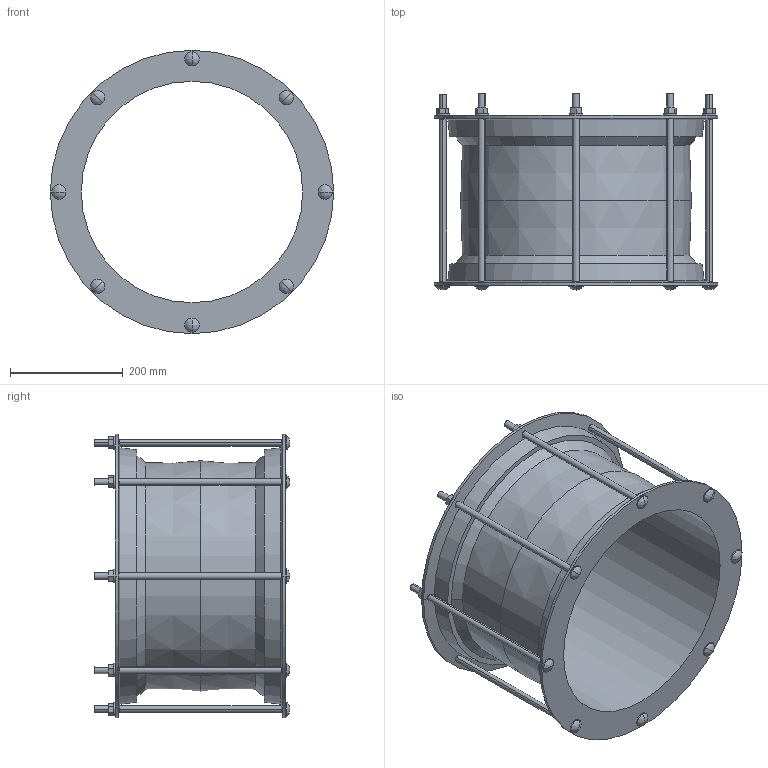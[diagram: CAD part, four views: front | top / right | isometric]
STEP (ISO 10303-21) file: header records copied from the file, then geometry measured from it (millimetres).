
FILE_DESCRIPTION((''),'2;1');
FILE_NAME('MAXIFIT_374_391','2018-12-18T',('mfairey'),('Glynwed Pipe Systems'),'CREO PARAMETRIC BY PTC INC, 2016130','CREO PARAMETRIC BY PTC INC, 2016130','');
FILE_SCHEMA(('CONFIG_CONTROL_DESIGN'));
Length unit declared in the file: millimetre
Products named in the file (1): MAXIFIT_374_391
Bounding box: 503.5 x 348 x 503.5 mm (x, y, z)
Volume: 5877544.3 mm3; surface area: 1132925.5 mm2
Topology: 1 solids, 1 shells, 178 faces, 432 edges, 270 vertices
Faces by surface type: plane 76, cylinder 70, cone 16, bspline 16
Entity records: 6298 total; most frequent: CARTESIAN_POINT 2146, DIRECTION 842, ORIENTED_EDGE 832, EDGE_CURVE 416, AXIS2_PLACEMENT_3D 304, VERTEX_POINT 270, VECTOR 234, LINE 234
